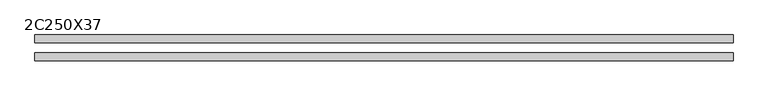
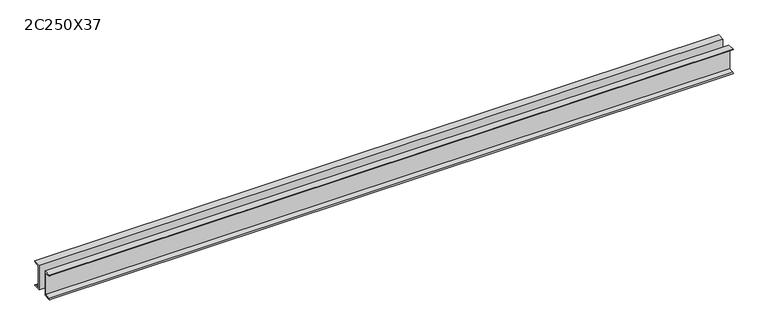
"""IFC4 building model written with IfcOpenShell, lengths in millimetres: beam geometry, Profilato a doppia C : 2C250X37."""

from ifc_helpers import new_model, si_unit, point, frame, frame_2d, origin, place, context, project, spatial, polyline, circle_curve, trimmed, segment, composite_curve, outline, extrude, source, transform, mapped, element, save


def beam_2c250x37_c125c019(model_context):
    return source(origin(), model_context, "Body", "SweptSolid", [
        extrude(outline(composite_curve([segment(polyline([(50.0, 127.0), (123.3, 127.0)]), True, "CONTINUOUS"), segment(trimmed(circle_curve(frame_2d((112.2, 127.0)), 11.1), [point((123.3, 127.0))], [point((112.2, 115.9))], False, "CARTESIAN"), True, "CONTINUOUS"), segment(polyline([(112.2, 115.9), (63.4, 108.1708393), (63.4, -108.1708393), (112.2, -115.9)]), True, "CONTINUOUS"), segment(trimmed(circle_curve(frame_2d((112.2, -127.0)), 11.1), [point((112.2, -115.9))], [point((123.3, -127.0))], False, "CARTESIAN"), True, "CONTINUOUS"), segment(polyline([(123.3, -127.0), (50.0, -127.0), (50.0, 127.0)]), True, "CONTINUOUS")], self_intersect=False)), frame((-3287.5, 0.0, 0.0), z_axis=(1.0, 0.0, 0.0), x_axis=(0.0, 1.0, 0.0)), (0.0, 0.0, 1.0), 6695.0),
        extrude(outline(composite_curve([segment(polyline([(-50.0, 127.0), (-50.0, -127.0), (-123.3, -127.0)]), True, "CONTINUOUS"), segment(trimmed(circle_curve(frame_2d((-112.2, -127.0)), 11.1), [point((-123.3, -127.0))], [point((-112.2, -115.9))], False, "CARTESIAN"), True, "CONTINUOUS"), segment(polyline([(-112.2, -115.9), (-63.4, -108.1708393), (-63.4, 108.1708393), (-112.2, 115.9)]), True, "CONTINUOUS"), segment(trimmed(circle_curve(frame_2d((-112.2, 127.0)), 11.1), [point((-112.2, 115.9))], [point((-123.3, 127.0))], False, "CARTESIAN"), True, "CONTINUOUS"), segment(polyline([(-123.3, 127.0), (-50.0, 127.0)]), True, "CONTINUOUS")], self_intersect=False)), frame((-3287.5, 0.0, 0.0), z_axis=(1.0, 0.0, 0.0), x_axis=(0.0, 1.0, 0.0)), (0.0, 0.0, 1.0), 6695.0),
    ])


if __name__ == "__main__":
    model = new_model("IFC4")
    model_context = context("Model", 3, world=origin())
    ifc_project = project(units=[si_unit("LENGTHUNIT", "METRE", prefix="MILLI")], contexts=[model_context])
    site = spatial("IfcSite", under=ifc_project)
    building = spatial("IfcBuilding", under=site)
    placement = place(None, origin())
    beam_2c250x37_shape = beam_2c250x37_c125c019(model_context)
    element("IfcBeam", 1, ObjectType="Profilato a doppia C : 2C250X37", at=placement, inside=building, context=model_context, shape_type="MappedRepresentation", body=[
        mapped(beam_2c250x37_shape, transform((0.0, 0.0, 0.0), x_axis=(1.0, 0.0, 0.0), y_axis=(0.0, 1.0, 0.0), z_axis=(0.0, 0.0, 1.0))),
    ])
    save(model, "model.ifc")
